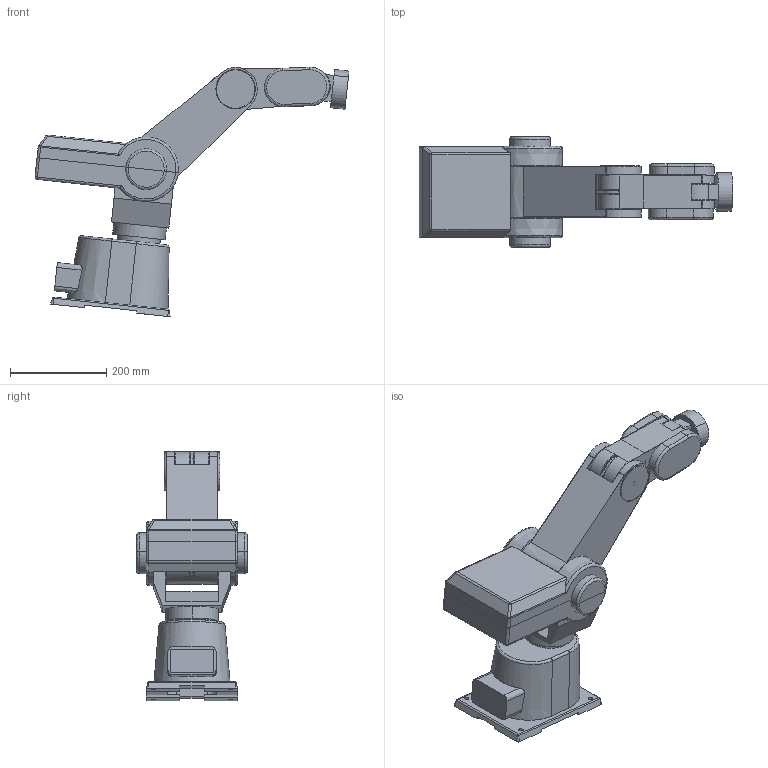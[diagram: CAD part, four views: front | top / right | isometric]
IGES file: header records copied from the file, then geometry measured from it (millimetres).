
Start section: START RECORD GO HERE.
Global section: file name: robot.igs; native system: DASSAULT SYSTEMES CATIA Version 5-6 Release 2013 - www.3ds.com; preprocessor: V5-6R2013_5.23.0.0.10-18-2012.20.00; author: Mateusz; organization: LAPTOP; date: 20180310.140831; units: millimetre
Bounding box: 652.97 x 230 x 518.69 mm (x, y, z)
Surface area: 1821510.8 mm2 (no closed solid volume)
Topology: 0 solids, 0 shells, 829 faces, 3868 edges, 3866 vertices
Faces by surface type: plane 420, revolution 405, bspline 4
